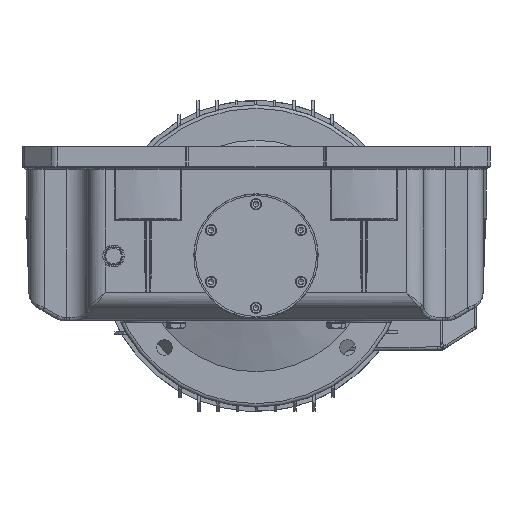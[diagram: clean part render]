
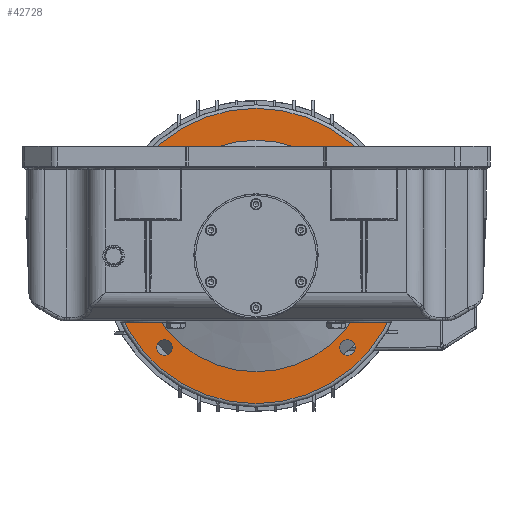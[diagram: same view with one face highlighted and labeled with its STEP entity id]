
A CAD part, front view. The second image highlights one B-rep face of the part: STEP entity #42728.
In plain terms, the highlighted planar face has unit normal (0, -1, 0) as drawn and (-1, 0, 0) by its records, which use the part's own axes.
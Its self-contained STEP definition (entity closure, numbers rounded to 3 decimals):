
#42633=CARTESIAN_POINT('',(-18.0,0.,171.0));
#42634=VERTEX_POINT('',#42633);
#42635=CARTESIAN_POINT('',(-18.0,0.0,0.0));
#42636=DIRECTION('',(1.0,0.0,0.0));
#42637=DIRECTION('',(0.0,0.0,-1.0));
#42638=AXIS2_PLACEMENT_3D('',#42635,#42636,#42637);
#42639=CIRCLE('',#42638,171.0);
#42640=EDGE_CURVE('',#42634,#42634,#42639,.T.);
#42665=CARTESIAN_POINT('',(-18.0,0.0,154.5));
#42666=DIRECTION('',(-1.0,0.0,0.0));
#42667=DIRECTION('',(0.0,0.0,1.0));
#42668=AXIS2_PLACEMENT_3D('',#42665,#42666,#42667);
#42669=PLANE('',#42668);
#42670=ORIENTED_EDGE('',*,*,#42640,.F.);
#42671=EDGE_LOOP('',(#42670));
#42672=FACE_OUTER_BOUND('',#42671,.T.);
#42673=CARTESIAN_POINT('',(-18.,0.0,134.0));
#42674=VERTEX_POINT('',#42673);
#42675=CARTESIAN_POINT('',(-18.,0.0,0.0));
#42676=DIRECTION('',(-1.0,0.0,0.0));
#42677=DIRECTION('',(0.0,0.0,1.0));
#42678=AXIS2_PLACEMENT_3D('',#42675,#42676,#42677);
#42679=CIRCLE('',#42678,134.0);
#42680=EDGE_CURVE('',#42674,#42674,#42679,.T.);
#42681=ORIENTED_EDGE('',*,*,#42680,.F.);
#42682=EDGE_LOOP('',(#42681));
#42683=FACE_BOUND('',#42682,.T.);
#42684=CARTESIAN_POINT('',(-18.,106.066,-97.066));
#42685=VERTEX_POINT('',#42684);
#42686=CARTESIAN_POINT('',(-18.,106.066,-106.066));
#42687=DIRECTION('',(1.0,0.0,0.0));
#42688=DIRECTION('',(0.0,0.0,-1.0));
#42689=AXIS2_PLACEMENT_3D('',#42686,#42687,#42688);
#42690=CIRCLE('',#42689,9.0);
#42691=EDGE_CURVE('',#42685,#42685,#42690,.T.);
#42692=ORIENTED_EDGE('',*,*,#42691,.T.);
#42693=EDGE_LOOP('',(#42692));
#42694=FACE_BOUND('',#42693,.T.);
#42695=CARTESIAN_POINT('',(-18.,97.066,106.066));
#42696=VERTEX_POINT('',#42695);
#42697=CARTESIAN_POINT('',(-18.,106.066,106.066));
#42698=DIRECTION('',(1.0,0.0,0.0));
#42699=DIRECTION('',(0.0,1.0,0.0));
#42700=AXIS2_PLACEMENT_3D('',#42697,#42698,#42699);
#42701=CIRCLE('',#42700,9.0);
#42702=EDGE_CURVE('',#42696,#42696,#42701,.T.);
#42703=ORIENTED_EDGE('',*,*,#42702,.T.);
#42704=EDGE_LOOP('',(#42703));
#42705=FACE_BOUND('',#42704,.T.);
#42706=CARTESIAN_POINT('',(-18.,-106.066,97.066));
#42707=VERTEX_POINT('',#42706);
#42708=CARTESIAN_POINT('',(-18.,-106.066,106.066));
#42709=DIRECTION('',(1.0,0.0,0.0));
#42710=DIRECTION('',(0.0,0.0,1.0));
#42711=AXIS2_PLACEMENT_3D('',#42708,#42709,#42710);
#42712=CIRCLE('',#42711,9.0);
#42713=EDGE_CURVE('',#42707,#42707,#42712,.T.);
#42714=ORIENTED_EDGE('',*,*,#42713,.T.);
#42715=EDGE_LOOP('',(#42714));
#42716=FACE_BOUND('',#42715,.T.);
#42717=CARTESIAN_POINT('',(-18.,-97.066,-106.066));
#42718=VERTEX_POINT('',#42717);
#42719=CARTESIAN_POINT('',(-18.,-106.066,-106.066));
#42720=DIRECTION('',(1.0,0.0,0.0));
#42721=DIRECTION('',(0.0,-1.0,0.0));
#42722=AXIS2_PLACEMENT_3D('',#42719,#42720,#42721);
#42723=CIRCLE('',#42722,9.0);
#42724=EDGE_CURVE('',#42718,#42718,#42723,.T.);
#42725=ORIENTED_EDGE('',*,*,#42724,.T.);
#42726=EDGE_LOOP('',(#42725));
#42727=FACE_BOUND('',#42726,.T.);
#42728=ADVANCED_FACE('',(#42672,#42683,#42694,#42705,#42716,#42727),#42669,.T.);
